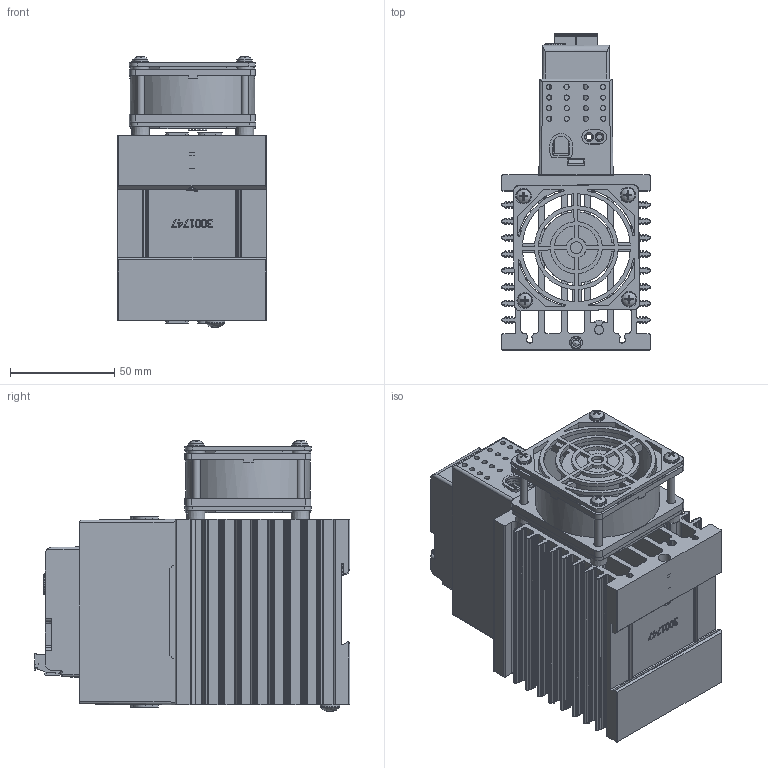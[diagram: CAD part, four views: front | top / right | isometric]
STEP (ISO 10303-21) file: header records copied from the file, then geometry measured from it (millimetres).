
FILE_DESCRIPTION(/* description */ (''),/* implementation_level */ '2;1');
FILE_NAME(/* name */ '1-phase Analog 65A.stp',/* time_stamp */ '2024-10-29T14:33:58-05:00',/* author */ ('ErikG'),/* organization */ (''),/* preprocessor_version */ 'ST-DEVELOPER v20',/* originating_system */ 'Autodesk Inventor 2025',/* authorisation */ '');
FILE_SCHEMA (('AUTOMOTIVE_DESIGN { 1 0 10303 214 3 1 1 }'));
Products named in the file (25): 3001631e; 3001757; 1001578K; P1; fci 6 pin header OQ06120000J0G; fci 6 pin headerOQ06120000J0G half 1; fci 5 pin header OQ05120000J0G half 2; fci 6 pin connector TS06110B00J0G; fci 5 pin connector TS05110B00J0G LEFT HALF; fci 5 pin connector TS05110B00J0G RIGHT HALF; P4; usb-c31-s-vt-cs4-bk-pp-t-r-model ADAMTECH; 3001759; 3001760; 3001755; 3001756; 3001747; 0060702-1032-0375; 0060783-0610-010.ipt; spring; 0060002-0632-1175; 62111-0006-0; 2R36_SQ_FAN_1R0 depth; 3001773; 3001772
Assembly tree (31 placements, depth 6):
  3001631e
    3001757
    1001578K
      P1
        fci 6 pin header OQ06120000J0G
          fci 6 pin headerOQ06120000J0G half 1
          fci 5 pin header OQ05120000J0G half 2
          fci 6 pin connector TS06110B00J0G
            fci 5 pin connector TS05110B00J0G LEFT HALF
            fci 5 pin connector TS05110B00J0G RIGHT HALF
      P4
        usb-c31-s-vt-cs4-bk-pp-t-r-model ADAMTECH
    3001759
    3001760  x2
    3001755
    3001756
    3001747
    0060702-1032-0375
    0060783-0610-010.ipt
    spring
    0060002-0632-1175  x4
    62111-0006-0  x4
    2R36_SQ_FAN_1R0 depth
    3001773
    3001772
Bounding box: 71.12 x 151.53 x 130.1 mm (x, y, z)
Volume: 301544.6 mm3; surface area: 240966.9 mm2
Topology: 27 solids, 121 shells, 5944 faces, 16376 edges, 10766 vertices
Faces by surface type: plane 4126, cylinder 1334, cone 289, bspline 113, torus 75, sphere 7
Full cylindrical faces by diameter (mm): 0.254 x1, 0.45 x2, 0.55 x2, 0.65 x2, 1 x2, 2.3 x12, 2.54 x2, 2.642 x3, 2.95 x6, 3.277 x2, 3.505 x4, 4.293 x8, 4.826 x1, 4.917 x1, 6 x1, 6.172 x1, 6.858 x4, 7.493 x8, 7.976 x1, 9.474 x1, 34.29 x1, 57.15 x1, 59.69 x1
Entity records: 193647 total; most frequent: CARTESIAN_POINT 49319, ORIENTED_EDGE 30710, DIRECTION 28711, EDGE_CURVE 15355, LINE 11381, VECTOR 11381, VERTEX_POINT 10092, AXIS2_PLACEMENT_3D 8665
